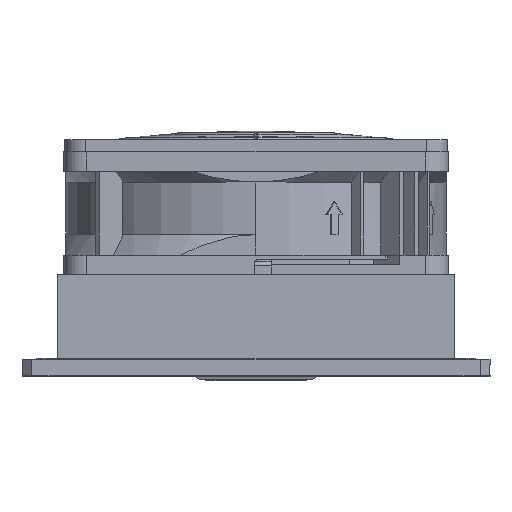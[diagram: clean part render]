
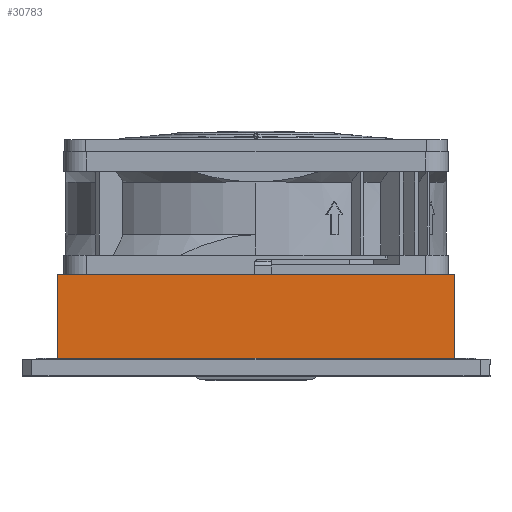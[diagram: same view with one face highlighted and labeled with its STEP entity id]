
A CAD part, top view. The second image highlights one B-rep face of the part: STEP entity #30783.
In plain terms, the highlighted planar face has unit normal (0, 0, 1).
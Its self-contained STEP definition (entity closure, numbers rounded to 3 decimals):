
#26688 = CARTESIAN_POINT ( 'NONE',  ( -61.5, 2., 61.5 ) ) ;
#26690 = CARTESIAN_POINT ( 'NONE',  ( 61.5, 2., 61.5 ) ) ;
#26693 = DIRECTION ( 'NONE',  ( -1., 0., 0. ) ) ;
#26694 = VECTOR ( 'NONE', #26693, 1000. ) ;
#26696 = CARTESIAN_POINT ( 'NONE',  ( -61.5, 2., 61.5 ) ) ;
#26698 = LINE ( 'NONE', #26696, #26694 ) ;
#29305 = EDGE_CURVE ( 'NONE', #29306, #29308, #26698, .T. ) ;
#29306 = VERTEX_POINT ( 'NONE', #26690 ) ;
#29308 = VERTEX_POINT ( 'NONE', #26688 ) ;
#30326 = CARTESIAN_POINT ( 'NONE',  ( 61.5, 29.25, 61.5 ) ) ;
#30600 = DIRECTION ( 'NONE',  ( 0., 1., 0. ) ) ;
#30601 = VECTOR ( 'NONE', #30600, 1000. ) ;
#30602 = CARTESIAN_POINT ( 'NONE',  ( -61.5, -197.99, 61.5 ) ) ;
#30604 = LINE ( 'NONE', #30602, #30601 ) ;
#30608 = CARTESIAN_POINT ( 'NONE',  ( -61.5, 29.25, 61.5 ) ) ;
#30610 = DIRECTION ( 'NONE',  ( 1., 0., 0. ) ) ;
#30612 = VECTOR ( 'NONE', #30610, 1000. ) ;
#30614 = CARTESIAN_POINT ( 'NONE',  ( -61.5, 29.25, 61.5 ) ) ;
#30615 = LINE ( 'NONE', #30614, #30612 ) ;
#30619 = DIRECTION ( 'NONE',  ( 1., 0., 0. ) ) ;
#30621 = DIRECTION ( 'NONE',  ( 0., 0., 1. ) ) ;
#30622 = CARTESIAN_POINT ( 'NONE',  ( -61.5, -197.99, 61.5 ) ) ;
#30624 = AXIS2_PLACEMENT_3D ( 'NONE', #30622, #30621, #30619 ) ;
#30625 = PLANE ( 'NONE',  #30624 ) ;
#30630 = FACE_OUTER_BOUND ( 'NONE', #30787, .T. ) ;
#30632 = DIRECTION ( 'NONE',  ( 0., 1., 0. ) ) ;
#30633 = VECTOR ( 'NONE', #30632, 1000. ) ;
#30636 = CARTESIAN_POINT ( 'NONE',  ( 61.5, -197.99, 61.5 ) ) ;
#30638 = LINE ( 'NONE', #30636, #30633 ) ;
#30667 = VERTEX_POINT ( 'NONE', #30326 ) ;
#30778 = EDGE_CURVE ( 'NONE', #29306, #30667, #30638, .T. ) ;
#30783 = ADVANCED_FACE ( 'NONE', ( #30630 ), #30625, .T. ) ;
#30787 = EDGE_LOOP ( 'NONE', ( #30788, #30789, #30793, #30798 ) ) ;
#30788 = ORIENTED_EDGE ( 'NONE', *, *, #30778, .T. ) ;
#30789 = ORIENTED_EDGE ( 'NONE', *, *, #30790, .F. ) ;
#30790 = EDGE_CURVE ( 'NONE', #30792, #30667, #30615, .T. ) ;
#30792 = VERTEX_POINT ( 'NONE', #30608 ) ;
#30793 = ORIENTED_EDGE ( 'NONE', *, *, #30795, .F. ) ;
#30795 = EDGE_CURVE ( 'NONE', #29308, #30792, #30604, .T. ) ;
#30798 = ORIENTED_EDGE ( 'NONE', *, *, #29305, .F. ) ;
